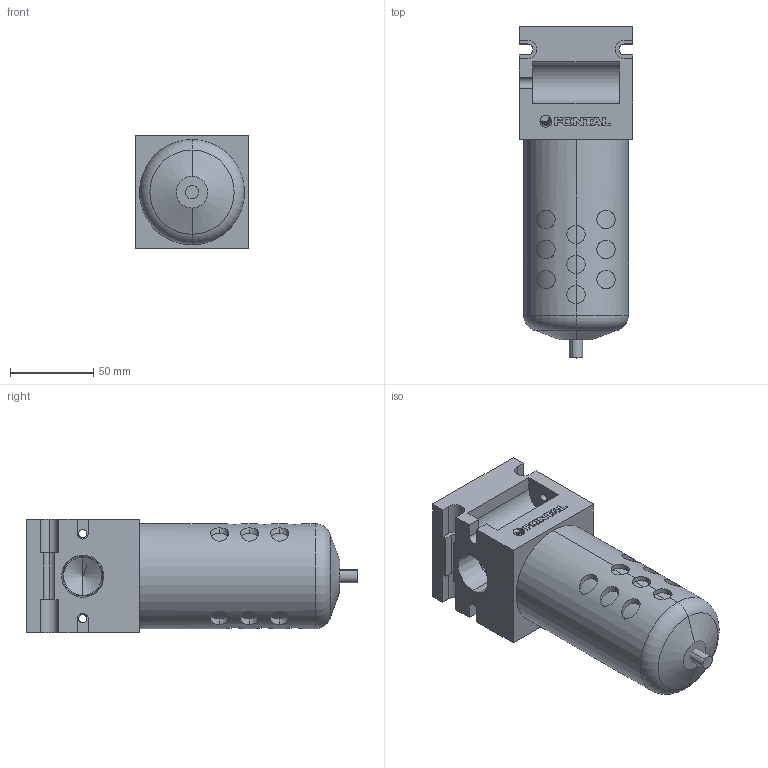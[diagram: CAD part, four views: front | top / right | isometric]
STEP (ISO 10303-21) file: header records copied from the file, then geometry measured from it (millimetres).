
FILE_DESCRIPTION (( 'STEP AP203' ), '1' );
FILE_NAME ('F105-06#Y#.STEP', '2016-02-03T06:21:13', ( '' ), ( '' ), 'SwSTEP 2.0', 'SolidWorks 2014', '' );
FILE_SCHEMA (( 'CONFIG_CONTROL_DESIGN' ));
Length unit declared in the file: millimetre
Products named in the file (5): F105-2; F105-MARK; F105-06; F105-06#Y#
Assembly tree (4 placements, depth 2):
  F105-06#Y#
    F105-06
    F105-2
    (unnamed)
    F105-MARK
Bounding box: 68 x 199 x 68.2 mm (x, y, z)
Volume: 583983.4 mm3; surface area: 70563.1 mm2
Topology: 10 solids, 10 shells, 238 faces, 600 edges, 394 vertices
Faces by surface type: plane 109, cylinder 107, cone 12, bspline 8, torus 2
Entity records: 10355 total; most frequent: CARTESIAN_POINT 4237, ORIENTED_EDGE 1192, DIRECTION 1078, EDGE_CURVE 596, VERTEX_POINT 394, VECTOR 376, LINE 376, AXIS2_PLACEMENT_3D 351
